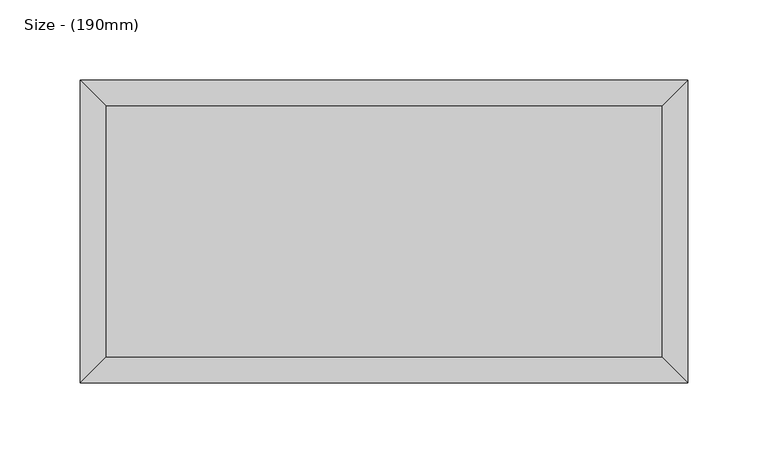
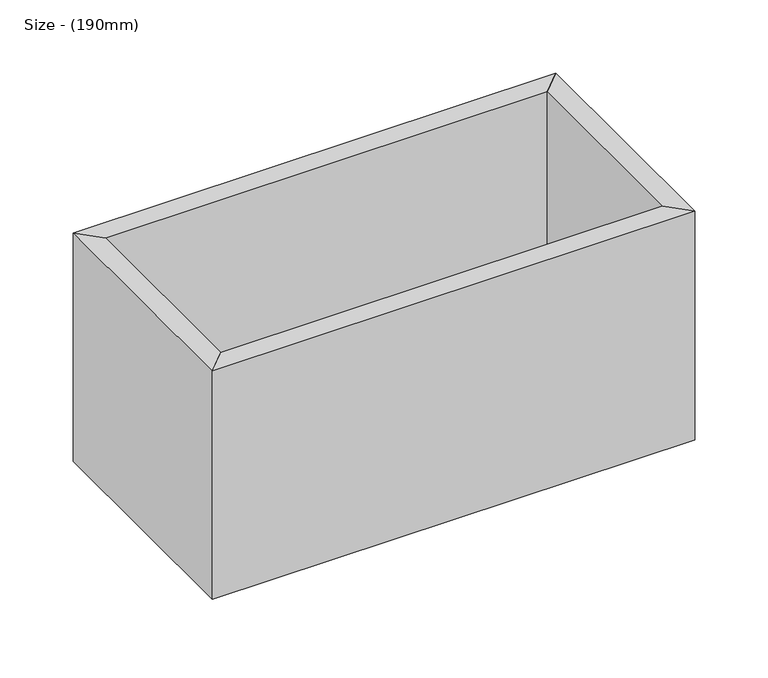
"""IFC4 building model written with IfcOpenShell, lengths in millimetres: proxy geometry, efg_create_storage_storage_box : Size - (190mm)."""

from ifc_helpers import new_model, si_unit, point, frame, origin, place, context, project, spatial, polyline, circle_curve, ellipse_curve, trimmed, outline, extrude, source, transform, mapped, element, save
from ifc_brep_helpers import plane_surface, revolved_surface, advanced_brep


def size_190mm_e11b31ef(model_context):
    return source(origin(), model_context, "Body", "SolidModel", [
        extrude(outline(polyline([(-176.5, -81.5), (-176.5, 81.5), (176.5, 81.5), (176.5, -81.5), (-176.5, -81.5)])), frame((0.0, 0.0, 9.0), z_axis=(0.0, 0.0, 1.0), x_axis=(1.0, 0.0, 0.0)), (0.0, 0.0, 1.0), 12.0),
        advanced_brep(
        [(-142.5, -47.5, 0.0), (-142.5, -38.5, 9.0), (-142.5, -56.5, 9.0)],
        [
            (0, 1, circle_curve(frame((-142.5, -47.5, 9.0), z_axis=(1.0, 0.0, 0.0), x_axis=(0.0, 0.0, -1.0)), 9.0)),
            (1, 2, circle_curve(frame((-142.5, -47.5, 9.0), z_axis=(0.0, 0.0, -1.0), x_axis=(0.0, -1.0, 0.0)), 9.0)),
            (2, 0, circle_curve(frame((-142.5, -47.5, 9.0), z_axis=(1.0, 0.0, 0.0), x_axis=(0.0, 0.0, -1.0)), 9.0)),
            (1, 2, circle_curve(frame((-142.5, -47.5, 9.0), z_axis=(0.0, 0.0, 1.0), x_axis=(0.0, 1.0, 0.0)), 9.0)),
        ],
        [
            revolved_surface(trimmed(ellipse_curve(frame((-142.5, -47.5, 9.0), z_axis=(-1.0, 0.0, 0.0), x_axis=(0.0, 0.0, -1.0)), 9.0, 9.0), [point((-142.5, -47.5, 0.0))], [point((-142.5, -56.5, 9.0))], True, "CARTESIAN"), (-142.5, -47.5, 0.0), (0.0, 0.0, 1.0)),
            plane_surface(frame((-151.5, -38.5, 9.0), z_axis=(0.0, 0.0, 1.0), x_axis=(-1.0, 0.0, 0.0))),
            revolved_surface(trimmed(ellipse_curve(frame((-142.5, -47.5, 9.0), z_axis=(1.0, 0.0, 0.0), x_axis=(0.0, 0.0, -1.0)), 9.0, 9.0), [point((-142.5, -47.5, 0.0))], [point((-142.5, -38.5, 9.0))], True, "CARTESIAN"), (-142.5, -47.5, 0.0), (0.0, 0.0, 1.0)),
        ],
        [
            (0, [[1, 2, 3]]),
            (1, [[-2, 4]]),
            (2, [[-3, -4, -1]]),
        ],
    ),
        extrude(outline(polyline([(-189.5, -94.5), (-173.5, -78.5), (173.5, -78.5), (189.5, -94.5), (-189.5, -94.5)])), frame((0.0, 0.0, 4.0), z_axis=(0.0, 0.0, 1.0), x_axis=(1.0, 0.0, 0.0)), (0.0, 0.0, 1.0), 190.0),
        extrude(outline(polyline([(-173.5, -78.5), (-189.5, -94.5), (-189.5, 94.5), (-173.5, 78.5), (-173.5, -78.5)])), frame((0.0, 0.0, 4.0), z_axis=(0.0, 0.0, 1.0), x_axis=(1.0, 0.0, 0.0)), (0.0, 0.0, 1.0), 190.0),
        advanced_brep(
        [(-142.5, 47.5, 0.0), (-142.5, 56.5, 9.0), (-142.5, 38.5, 9.0)],
        [
            (0, 1, circle_curve(frame((-142.5, 47.5, 9.0), z_axis=(1.0, 0.0, 0.0), x_axis=(0.0, 0.0, -1.0)), 9.0)),
            (1, 2, circle_curve(frame((-142.5, 47.5, 9.0), z_axis=(0.0, 0.0, -1.0), x_axis=(0.0, -1.0, 0.0)), 9.0)),
            (2, 0, circle_curve(frame((-142.5, 47.5, 9.0), z_axis=(1.0, 0.0, 0.0), x_axis=(0.0, 0.0, -1.0)), 9.0)),
            (1, 2, circle_curve(frame((-142.5, 47.5, 9.0), z_axis=(0.0, 0.0, 1.0), x_axis=(0.0, 1.0, 0.0)), 9.0)),
        ],
        [
            revolved_surface(trimmed(ellipse_curve(frame((-142.5, 47.5, 9.0), z_axis=(-1.0, 0.0, 0.0), x_axis=(0.0, 0.0, -1.0)), 9.0, 9.0), [point((-142.5, 47.5, 0.0))], [point((-142.5, 38.5, 9.0))], True, "CARTESIAN"), (-142.5, 47.5, 0.0), (0.0, 0.0, 1.0)),
            plane_surface(frame((-151.5, 56.5, 9.0), z_axis=(0.0, 0.0, 1.0), x_axis=(-1.0, 0.0, 0.0))),
            revolved_surface(trimmed(ellipse_curve(frame((-142.5, 47.5, 9.0), z_axis=(1.0, 0.0, 0.0), x_axis=(0.0, 0.0, -1.0)), 9.0, 9.0), [point((-142.5, 47.5, 0.0))], [point((-142.5, 56.5, 9.0))], True, "CARTESIAN"), (-142.5, 47.5, 0.0), (0.0, 0.0, 1.0)),
        ],
        [
            (0, [[1, 2, 3]]),
            (1, [[-2, 4]]),
            (2, [[-3, -4, -1]]),
        ],
    ),
        advanced_brep(
        [(142.5, 47.5, 0.0), (142.5, 56.5, 9.0), (142.5, 38.5, 9.0)],
        [
            (0, 1, circle_curve(frame((142.5, 47.5, 9.0), z_axis=(1.0, 0.0, 0.0), x_axis=(0.0, 0.0, -1.0)), 9.0)),
            (1, 2, circle_curve(frame((142.5, 47.5, 9.0), z_axis=(0.0, 0.0, -1.0), x_axis=(0.0, -1.0, 0.0)), 9.0)),
            (2, 0, circle_curve(frame((142.5, 47.5, 9.0), z_axis=(1.0, 0.0, 0.0), x_axis=(0.0, 0.0, -1.0)), 9.0)),
            (1, 2, circle_curve(frame((142.5, 47.5, 9.0), z_axis=(0.0, 0.0, 1.0), x_axis=(0.0, 1.0, 0.0)), 9.0)),
        ],
        [
            revolved_surface(trimmed(ellipse_curve(frame((142.5, 47.5, 9.0), z_axis=(-1.0, 0.0, 0.0), x_axis=(0.0, 0.0, -1.0)), 9.0, 9.0), [point((142.5, 47.5, 0.0))], [point((142.5, 38.5, 9.0))], True, "CARTESIAN"), (142.5, 47.5, 0.0), (0.0, 0.0, 1.0)),
            plane_surface(frame((133.5, 56.5, 9.0), z_axis=(0.0, 0.0, 1.0), x_axis=(-1.0, 0.0, 0.0))),
            revolved_surface(trimmed(ellipse_curve(frame((142.5, 47.5, 9.0), z_axis=(1.0, 0.0, 0.0), x_axis=(0.0, 0.0, -1.0)), 9.0, 9.0), [point((142.5, 47.5, 0.0))], [point((142.5, 56.5, 9.0))], True, "CARTESIAN"), (142.5, 47.5, 0.0), (0.0, 0.0, 1.0)),
        ],
        [
            (0, [[1, 2, 3]]),
            (1, [[-2, 4]]),
            (2, [[-3, -4, -1]]),
        ],
    ),
        advanced_brep(
        [(142.5, -47.5, 0.0), (142.5, -38.5, 9.0), (142.5, -56.5, 9.0)],
        [
            (0, 1, circle_curve(frame((142.5, -47.5, 9.0), z_axis=(1.0, 0.0, 0.0), x_axis=(0.0, 0.0, -1.0)), 9.0)),
            (1, 2, circle_curve(frame((142.5, -47.5, 9.0), z_axis=(0.0, 0.0, -1.0), x_axis=(0.0, -1.0, 0.0)), 9.0)),
            (2, 0, circle_curve(frame((142.5, -47.5, 9.0), z_axis=(1.0, 0.0, 0.0), x_axis=(0.0, 0.0, -1.0)), 9.0)),
            (1, 2, circle_curve(frame((142.5, -47.5, 9.0), z_axis=(0.0, 0.0, 1.0), x_axis=(0.0, 1.0, 0.0)), 9.0)),
        ],
        [
            revolved_surface(trimmed(ellipse_curve(frame((142.5, -47.5, 9.0), z_axis=(-1.0, 0.0, 0.0), x_axis=(0.0, 0.0, -1.0)), 9.0, 9.0), [point((142.5, -47.5, 0.0))], [point((142.5, -56.5, 9.0))], True, "CARTESIAN"), (142.5, -47.5, 0.0), (0.0, 0.0, 1.0)),
            plane_surface(frame((133.5, -38.5, 9.0), z_axis=(0.0, 0.0, 1.0), x_axis=(-1.0, 0.0, 0.0))),
            revolved_surface(trimmed(ellipse_curve(frame((142.5, -47.5, 9.0), z_axis=(1.0, 0.0, 0.0), x_axis=(0.0, 0.0, -1.0)), 9.0, 9.0), [point((142.5, -47.5, 0.0))], [point((142.5, -38.5, 9.0))], True, "CARTESIAN"), (142.5, -47.5, 0.0), (0.0, 0.0, 1.0)),
        ],
        [
            (0, [[1, 2, 3]]),
            (1, [[-2, 4]]),
            (2, [[-3, -4, -1]]),
        ],
    ),
        extrude(outline(polyline([(189.5, 94.5), (173.5, 78.5), (-173.5, 78.5), (-189.5, 94.5), (189.5, 94.5)])), frame((0.0, 0.0, 4.0), z_axis=(0.0, 0.0, 1.0), x_axis=(1.0, 0.0, 0.0)), (0.0, 0.0, 1.0), 190.0),
        extrude(outline(polyline([(173.5, 78.5), (189.5, 94.5), (189.5, -94.5), (173.5, -78.5), (173.5, 78.5)])), frame((0.0, 0.0, 4.0), z_axis=(0.0, 0.0, 1.0), x_axis=(1.0, 0.0, 0.0)), (0.0, 0.0, 1.0), 190.0),
    ])


if __name__ == "__main__":
    model = new_model("IFC4")
    model_context = context("Model", 3, world=origin())
    ifc_project = project(units=[si_unit("LENGTHUNIT", "METRE", prefix="MILLI")], contexts=[model_context])
    site = spatial("IfcSite", under=ifc_project)
    building = spatial("IfcBuilding", under=site)
    placement = place(None, origin())
    size_190mm_shape = size_190mm_e11b31ef(model_context)
    element("IfcBuildingElementProxy", 1, Name="efg_create_storage_storage_box : Size - (190mm)", ObjectType="efg_create_storage_storage_box : Size - (190mm)", at=placement, inside=building, context=model_context, shape_type="MappedRepresentation", body=[
        mapped(size_190mm_shape, transform((0.0, 0.0, 0.0), x_axis=(1.0, 0.0, 0.0), y_axis=(0.0, 1.0, 0.0), z_axis=(0.0, 0.0, 1.0))),
    ])
    save(model, "model.ifc")
